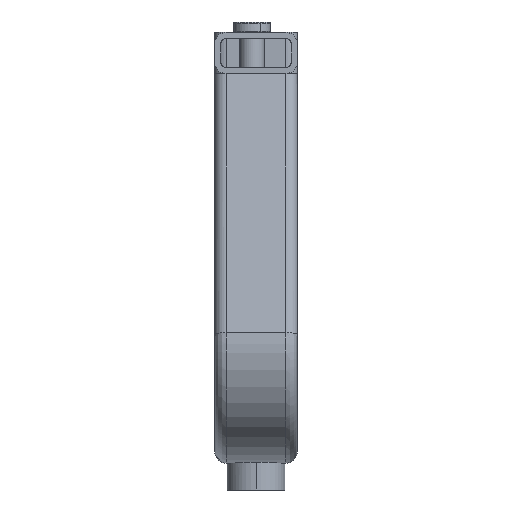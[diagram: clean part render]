
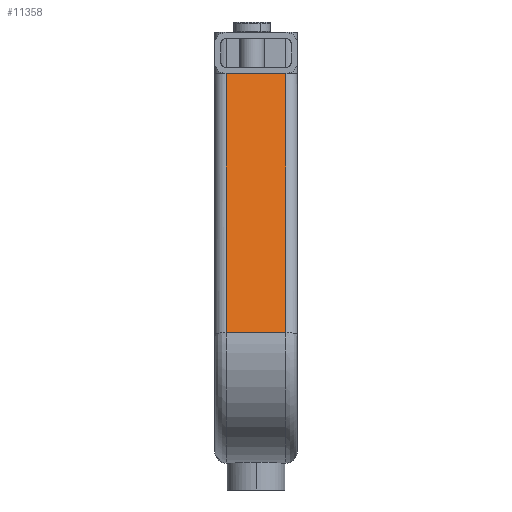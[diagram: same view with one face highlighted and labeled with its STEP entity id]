
A CAD part, left-side view. The second image highlights one B-rep face of the part: STEP entity #11358.
In plain terms, the highlighted planar face has unit normal (-0.982, 0, 0.191).
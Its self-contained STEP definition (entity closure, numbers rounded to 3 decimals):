
#6663=CARTESIAN_POINT('Vertex',(763.025,-212.5,247.157)) ;
#6667=CARTESIAN_POINT('Control Point',(763.025,-212.5,247.157)) ;
#6668=CARTESIAN_POINT('Control Point',(763.025,-183.5,247.157)) ;
#6669=CARTESIAN_POINT('Vertex',(763.025,-183.5,247.157)) ;
#11328=CARTESIAN_POINT('Axis2P3D Location',(762.97,-218.,246.873)) ;
#11333=CARTESIAN_POINT('Line Origine',(787.369,-198.,372.395)) ;
#11337=CARTESIAN_POINT('Vertex',(787.369,-212.5,372.395)) ;
#11339=CARTESIAN_POINT('Vertex',(787.369,-183.5,372.395)) ;
#11342=CARTESIAN_POINT('Line Origine',(775.197,-183.5,309.776)) ;
#11347=CARTESIAN_POINT('Line Origine',(775.197,-212.5,309.776)) ;
#11329=DIRECTION('Axis2P3D Direction',(0.982,0.,-0.191)) ;
#11330=DIRECTION('Axis2P3D XDirection',(0.,1.,0.)) ;
#11334=DIRECTION('Vector Direction',(0.,1.,0.)) ;
#11343=DIRECTION('Vector Direction',(-0.191,0.,-0.982)) ;
#11348=DIRECTION('Vector Direction',(0.191,0.,0.982)) ;
#11331=AXIS2_PLACEMENT_3D('Plane Axis2P3D',#11328,#11329,#11330) ;
#11353=ORIENTED_EDGE('',*,*,#11341,.T.) ;
#11354=ORIENTED_EDGE('',*,*,#11346,.F.) ;
#11355=ORIENTED_EDGE('',*,*,#6671,.F.) ;
#11356=ORIENTED_EDGE('',*,*,#11351,.T.) ;
#11335=VECTOR('Line Direction',#11334,1.) ;
#11344=VECTOR('Line Direction',#11343,1.) ;
#11349=VECTOR('Line Direction',#11348,1.) ;
#11358=ADVANCED_FACE('\X2\51E04F554F53\X0\.8',(#11357),#11332,.F.) ;
#6666=B_SPLINE_CURVE_WITH_KNOTS('',1,(#6667,#6668),.UNSPECIFIED.,.F.,.U.,(2,2),(-34.5,-5.5),.UNSPECIFIED.) ;
#6671=EDGE_CURVE('',#6664,#6670,#6666,.T.) ;
#11341=EDGE_CURVE('',#11338,#11340,#11336,.T.) ;
#11346=EDGE_CURVE('',#6670,#11340,#11345,.F.) ;
#11351=EDGE_CURVE('',#6664,#11338,#11350,.T.) ;
#11352=EDGE_LOOP('',(#11353,#11354,#11355,#11356)) ;
#11357=FACE_OUTER_BOUND('',#11352,.T.) ;
#11336=LINE('Line',#11333,#11335) ;
#11345=LINE('Line',#11342,#11344) ;
#11350=LINE('Line',#11347,#11349) ;
#11332=PLANE('Plane',#11331) ;
#6664=VERTEX_POINT('',#6663) ;
#6670=VERTEX_POINT('',#6669) ;
#11338=VERTEX_POINT('',#11337) ;
#11340=VERTEX_POINT('',#11339) ;
